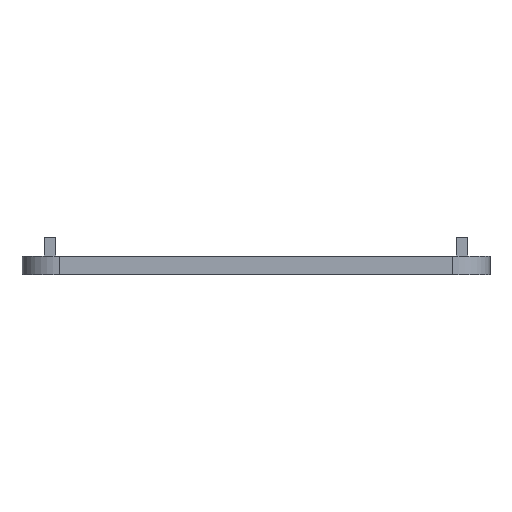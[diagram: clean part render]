
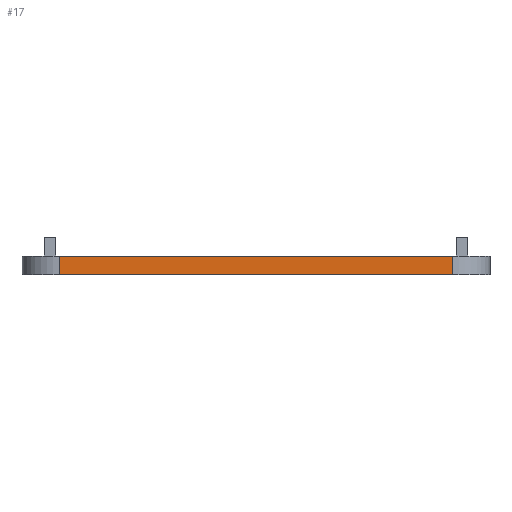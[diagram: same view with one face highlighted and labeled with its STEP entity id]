
A CAD part, left-side view. The second image highlights one B-rep face of the part: STEP entity #17.
In plain terms, the highlighted planar face has unit normal (-1, 0, 0).
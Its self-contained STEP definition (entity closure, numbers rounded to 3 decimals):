
#17 = ADVANCED_FACE('',(#18),#32,.F.);
#18 = FACE_BOUND('',#19,.F.);
#19 = EDGE_LOOP('',(#20,#55,#83,#111));
#20 = ORIENTED_EDGE('',*,*,#21,.F.);
#21 = EDGE_CURVE('',#22,#24,#26,.T.);
#22 = VERTEX_POINT('',#23);
#23 = CARTESIAN_POINT('',(0.,4.,2.));
#24 = VERTEX_POINT('',#25);
#25 = CARTESIAN_POINT('',(0.,46.,2.));
#26 = SURFACE_CURVE('',#27,(#31,#43),.PCURVE_S1.);
#27 = LINE('',#28,#29);
#28 = CARTESIAN_POINT('',(0.,0.,2.));
#29 = VECTOR('',#30,1.);
#30 = DIRECTION('',(0.,1.,0.));
#31 = PCURVE('',#32,#37);
#32 = PLANE('',#33);
#33 = AXIS2_PLACEMENT_3D('',#34,#35,#36);
#34 = CARTESIAN_POINT('',(0.,0.,0.));
#35 = DIRECTION('',(1.,0.,0.));
#36 = DIRECTION('',(0.,0.,1.));
#37 = DEFINITIONAL_REPRESENTATION('',(#38),#42);
#38 = LINE('',#39,#40);
#39 = CARTESIAN_POINT('',(2.,0.));
#40 = VECTOR('',#41,1.);
#41 = DIRECTION('',(0.,-1.));
#42 = ( GEOMETRIC_REPRESENTATION_CONTEXT(2) 
PARAMETRIC_REPRESENTATION_CONTEXT() REPRESENTATION_CONTEXT('2D SPACE',''
  ) );
#43 = PCURVE('',#44,#49);
#44 = PLANE('',#45);
#45 = AXIS2_PLACEMENT_3D('',#46,#47,#48);
#46 = CARTESIAN_POINT('',(0.,0.,2.));
#47 = DIRECTION('',(0.,0.,1.));
#48 = DIRECTION('',(1.,0.,0.));
#49 = DEFINITIONAL_REPRESENTATION('',(#50),#54);
#50 = LINE('',#51,#52);
#51 = CARTESIAN_POINT('',(0.,0.));
#52 = VECTOR('',#53,1.);
#53 = DIRECTION('',(0.,1.));
#54 = ( GEOMETRIC_REPRESENTATION_CONTEXT(2) 
PARAMETRIC_REPRESENTATION_CONTEXT() REPRESENTATION_CONTEXT('2D SPACE',''
  ) );
#55 = ORIENTED_EDGE('',*,*,#56,.F.);
#56 = EDGE_CURVE('',#57,#22,#59,.T.);
#57 = VERTEX_POINT('',#58);
#58 = CARTESIAN_POINT('',(0.,4.,0.));
#59 = SURFACE_CURVE('',#60,(#64,#71),.PCURVE_S1.);
#60 = LINE('',#61,#62);
#61 = CARTESIAN_POINT('',(0.,4.,0.));
#62 = VECTOR('',#63,1.);
#63 = DIRECTION('',(0.,0.,1.));
#64 = PCURVE('',#32,#65);
#65 = DEFINITIONAL_REPRESENTATION('',(#66),#70);
#66 = LINE('',#67,#68);
#67 = CARTESIAN_POINT('',(0.,-4.));
#68 = VECTOR('',#69,1.);
#69 = DIRECTION('',(1.,0.));
#70 = ( GEOMETRIC_REPRESENTATION_CONTEXT(2) 
PARAMETRIC_REPRESENTATION_CONTEXT() REPRESENTATION_CONTEXT('2D SPACE',''
  ) );
#71 = PCURVE('',#72,#77);
#72 = CYLINDRICAL_SURFACE('',#73,4.);
#73 = AXIS2_PLACEMENT_3D('',#74,#75,#76);
#74 = CARTESIAN_POINT('',(4.,4.,0.));
#75 = DIRECTION('',(0.,0.,1.));
#76 = DIRECTION('',(-1.,-0.,0.));
#77 = DEFINITIONAL_REPRESENTATION('',(#78),#82);
#78 = LINE('',#79,#80);
#79 = CARTESIAN_POINT('',(0.,0.));
#80 = VECTOR('',#81,1.);
#81 = DIRECTION('',(0.,1.));
#82 = ( GEOMETRIC_REPRESENTATION_CONTEXT(2) 
PARAMETRIC_REPRESENTATION_CONTEXT() REPRESENTATION_CONTEXT('2D SPACE',''
  ) );
#83 = ORIENTED_EDGE('',*,*,#84,.T.);
#84 = EDGE_CURVE('',#57,#85,#87,.T.);
#85 = VERTEX_POINT('',#86);
#86 = CARTESIAN_POINT('',(0.,46.,0.));
#87 = SURFACE_CURVE('',#88,(#92,#99),.PCURVE_S1.);
#88 = LINE('',#89,#90);
#89 = CARTESIAN_POINT('',(0.,0.,0.));
#90 = VECTOR('',#91,1.);
#91 = DIRECTION('',(0.,1.,0.));
#92 = PCURVE('',#32,#93);
#93 = DEFINITIONAL_REPRESENTATION('',(#94),#98);
#94 = LINE('',#95,#96);
#95 = CARTESIAN_POINT('',(0.,0.));
#96 = VECTOR('',#97,1.);
#97 = DIRECTION('',(0.,-1.));
#98 = ( GEOMETRIC_REPRESENTATION_CONTEXT(2) 
PARAMETRIC_REPRESENTATION_CONTEXT() REPRESENTATION_CONTEXT('2D SPACE',''
  ) );
#99 = PCURVE('',#100,#105);
#100 = PLANE('',#101);
#101 = AXIS2_PLACEMENT_3D('',#102,#103,#104);
#102 = CARTESIAN_POINT('',(0.,0.,0.));
#103 = DIRECTION('',(0.,0.,1.));
#104 = DIRECTION('',(1.,0.,0.));
#105 = DEFINITIONAL_REPRESENTATION('',(#106),#110);
#106 = LINE('',#107,#108);
#107 = CARTESIAN_POINT('',(0.,0.));
#108 = VECTOR('',#109,1.);
#109 = DIRECTION('',(0.,1.));
#110 = ( GEOMETRIC_REPRESENTATION_CONTEXT(2) 
PARAMETRIC_REPRESENTATION_CONTEXT() REPRESENTATION_CONTEXT('2D SPACE',''
  ) );
#111 = ORIENTED_EDGE('',*,*,#112,.T.);
#112 = EDGE_CURVE('',#85,#24,#113,.T.);
#113 = SURFACE_CURVE('',#114,(#118,#125),.PCURVE_S1.);
#114 = LINE('',#115,#116);
#115 = CARTESIAN_POINT('',(0.,46.,0.));
#116 = VECTOR('',#117,1.);
#117 = DIRECTION('',(0.,0.,1.));
#118 = PCURVE('',#32,#119);
#119 = DEFINITIONAL_REPRESENTATION('',(#120),#124);
#120 = LINE('',#121,#122);
#121 = CARTESIAN_POINT('',(0.,-46.));
#122 = VECTOR('',#123,1.);
#123 = DIRECTION('',(1.,0.));
#124 = ( GEOMETRIC_REPRESENTATION_CONTEXT(2) 
PARAMETRIC_REPRESENTATION_CONTEXT() REPRESENTATION_CONTEXT('2D SPACE',''
  ) );
#125 = PCURVE('',#126,#131);
#126 = CYLINDRICAL_SURFACE('',#127,4.);
#127 = AXIS2_PLACEMENT_3D('',#128,#129,#130);
#128 = CARTESIAN_POINT('',(4.,46.,0.));
#129 = DIRECTION('',(0.,0.,1.));
#130 = DIRECTION('',(-1.,-0.,0.));
#131 = DEFINITIONAL_REPRESENTATION('',(#132),#136);
#132 = LINE('',#133,#134);
#133 = CARTESIAN_POINT('',(-0.,0.));
#134 = VECTOR('',#135,1.);
#135 = DIRECTION('',(-0.,1.));
#136 = ( GEOMETRIC_REPRESENTATION_CONTEXT(2) 
PARAMETRIC_REPRESENTATION_CONTEXT() REPRESENTATION_CONTEXT('2D SPACE',''
  ) );
